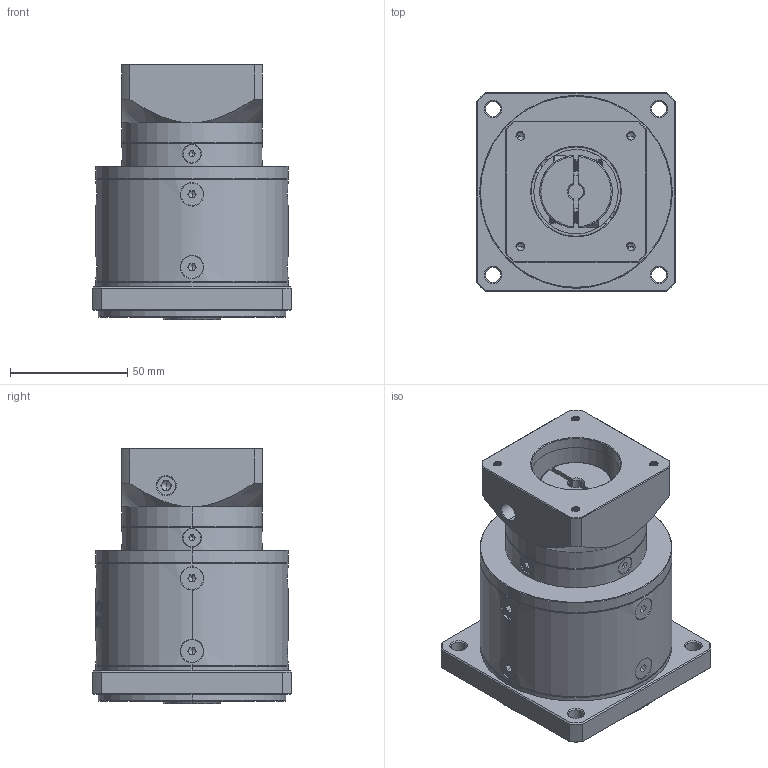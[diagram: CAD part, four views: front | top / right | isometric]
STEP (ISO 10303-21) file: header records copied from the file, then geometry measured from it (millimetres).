
FILE_DESCRIPTION (( 'STEP AP214' ), '1' );
FILE_NAME ('ZF080-K15-L2-P2-6.35-38.1-47.14X47.14-M4.step', '2023-08-19T06:59:28', ( '' ), ( '' ), 'SwSTEP 2.0', 'SolidWorks 2016', '' );
FILE_SCHEMA (( 'AUTOMOTIVE_DESIGN' ));
Length unit declared in the file: millimetre
Products named in the file (1): ZF080-K15-L2-P2-6.35-38.1-47.14X47.14-M4
Bounding box: 85 x 85 x 109 mm (x, y, z)
Volume: 457337.5 mm3; surface area: 66378.8 mm2
Topology: 18 solids, 18 shells, 2231 faces, 5891 edges, 3760 vertices
Faces by surface type: plane 1118, bspline 390, cylinder 369, cone 314, torus 40
Entity records: 114716 total; most frequent: CARTESIAN_POINT 39741, ORIENTED_EDGE 11710, DIRECTION 8786, EDGE_CURVE 5855, VERTEX_POINT 3760, VECTOR 3112, LINE 3112, AXIS2_PLACEMENT_3D 2837
